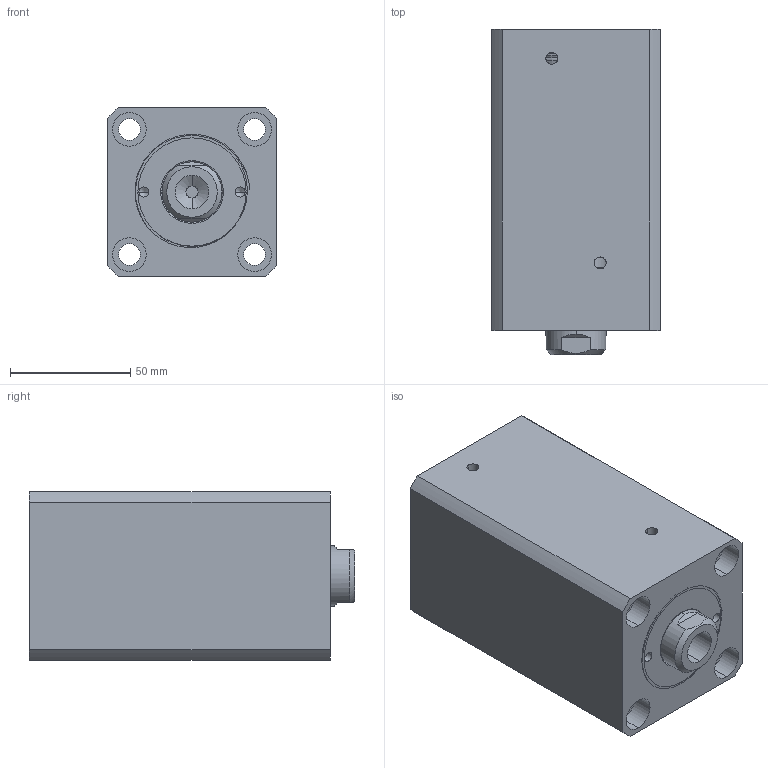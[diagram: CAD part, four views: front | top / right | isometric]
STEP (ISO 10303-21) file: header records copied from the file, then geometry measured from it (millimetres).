
FILE_DESCRIPTION (( 'STEP AP214' ), '1' );
FILE_NAME ('chtb-sdmb40x70n_asm.STEP', '2018-06-07T02:29:42', ( 'Windows' ), ( 'Microsoft' ), 'SwSTEP 2.0', 'SolidWorks 2015', '' );
FILE_SCHEMA (( 'AUTOMOTIVE_DESIGN' ));
Length unit declared in the file: millimetre
Products named in the file (4): CHTB-SD40X70NHSG; chtb-sdmb40x70n_asm; CHTB-SD40QG; CHTB-SDMB40X70NBT
Assembly tree (3 placements, depth 2):
  chtb-sdmb40x70n_asm
    CHTB-SD40X70NHSG
    CHTB-SDMB40X70NBT
    CHTB-SD40QG
Bounding box: 70 x 135 x 70 mm (x, y, z)
Volume: 507695.2 mm3; surface area: 101916.4 mm2
Topology: 3 solids, 3 shells, 155 faces, 407 edges, 270 vertices
Faces by surface type: cylinder 84, plane 34, torus 14, bspline 14, cone 9
Entity records: 10007 total; most frequent: CARTESIAN_POINT 6085, ORIENTED_EDGE 802, DIRECTION 758, EDGE_CURVE 401, AXIS2_PLACEMENT_3D 322, VERTEX_POINT 270, EDGE_LOOP 191, CIRCLE 175
